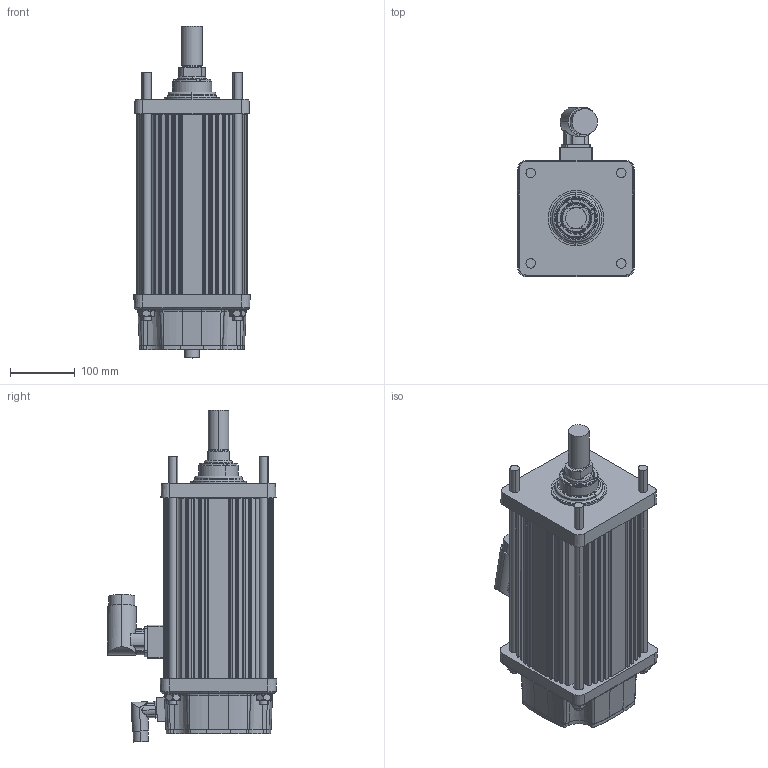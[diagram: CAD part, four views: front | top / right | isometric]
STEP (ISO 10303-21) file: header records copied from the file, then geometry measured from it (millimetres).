
FILE_DESCRIPTION (( 'STEP AP203' ), '1' );
FILE_NAME ('GSX60 – 6 inch, Extended Tie Rod, euro conn, A rod.step', '2007-07-25T08:42:04', ( 'i2t2' ), ( '' ), 'SwSTEP 2.0', 'SolidWorks 2007', '' );
FILE_SCHEMA (( 'CONFIG_CONTROL_DESIGN' ));
Length unit declared in the file: inch
Products named in the file (15): 19022; 19820; 14063; 15635; TIEROD_15599-6"; GSX60 – 6 inch, Extended Tie Rod, euro conn, A rod; CASE_20895-6"; 12352; MAIN ROD_A-Main Rod-6"; 15626; 19032; 12377; 24861; 20506; 15340
Assembly tree (24 placements, depth 2):
  GSX60 – 6 inch, Extended Tie Rod, euro conn, A rod
    TIEROD_15599-6"  x4
    14063  x4
    12352  x2
    15340
    20506
    CASE_20895-6"
    15635  x4
    15626
    19022
    MAIN ROD_A-Main Rod-6"
    19032
    24861
    12377
    19820
Bounding box: 179.74 x 261.41 x 512.09 mm (x, y, z)
Volume: 4875320.1 mm3; surface area: 1056285.4 mm2
Topology: 24 solids, 24 shells, 1398 faces, 3736 edges, 2325 vertices
Faces by surface type: cylinder 591, plane 324, torus 235, cone 176, sphere 46, bspline 26
Entity records: 39797 total; most frequent: CARTESIAN_POINT 9326, DIRECTION 6307, ORIENTED_EDGE 5838, EDGE_CURVE 2919, AXIS2_PLACEMENT_3D 2573, VERTEX_POINT 1858, CIRCLE 1414, EDGE_LOOP 1341
